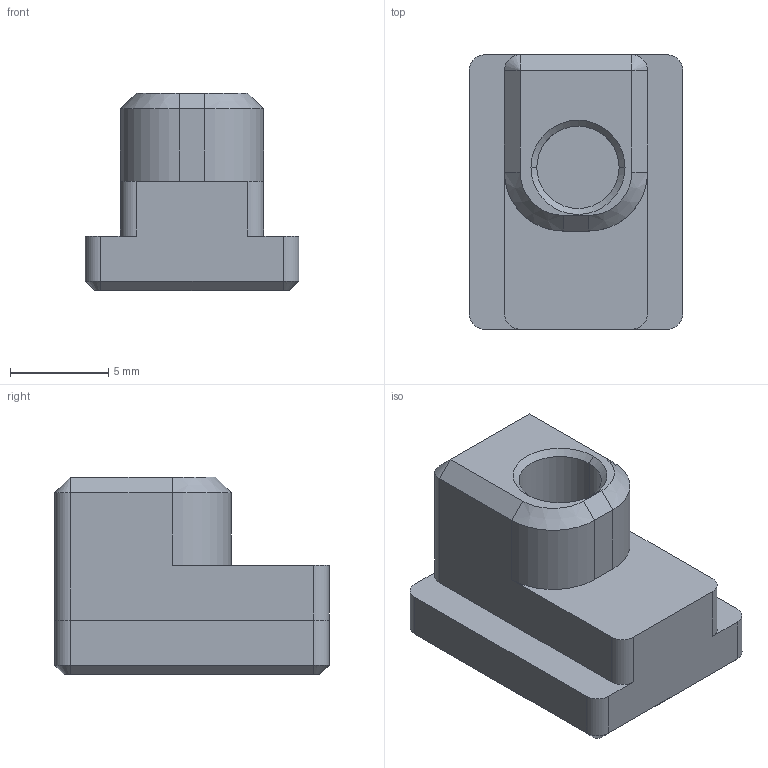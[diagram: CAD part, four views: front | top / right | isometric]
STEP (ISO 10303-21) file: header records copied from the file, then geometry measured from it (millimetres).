
FILE_DESCRIPTION((''),'2;1');
FILE_NAME('_000_9990006_6_LLL','2024-10-21T08:51:28',('Administrator'),(''),'CREO PARAMETRIC BY PTC INC, 2024063','CREO PARAMETRIC BY PTC INC, 2024063','');
FILE_SCHEMA(('CONFIG_CONTROL_DESIGN'));
Length unit declared in the file: millimetre
Products named in the file (1): _000_9990006_6_LLL
Bounding box: 10.9 x 14 x 10.1 mm (x, y, z)
Volume: 863.2 mm3; surface area: 753.5 mm2
Topology: 1 solids, 1 shells, 47 faces, 115 edges, 70 vertices
Faces by surface type: plane 24, cylinder 13, cone 10
Entity records: 1395 total; most frequent: DIRECTION 245, CARTESIAN_POINT 230, ORIENTED_EDGE 226, EDGE_CURVE 113, AXIS2_PLACEMENT_3D 85, VECTOR 75, LINE 75, VERTEX_POINT 70
